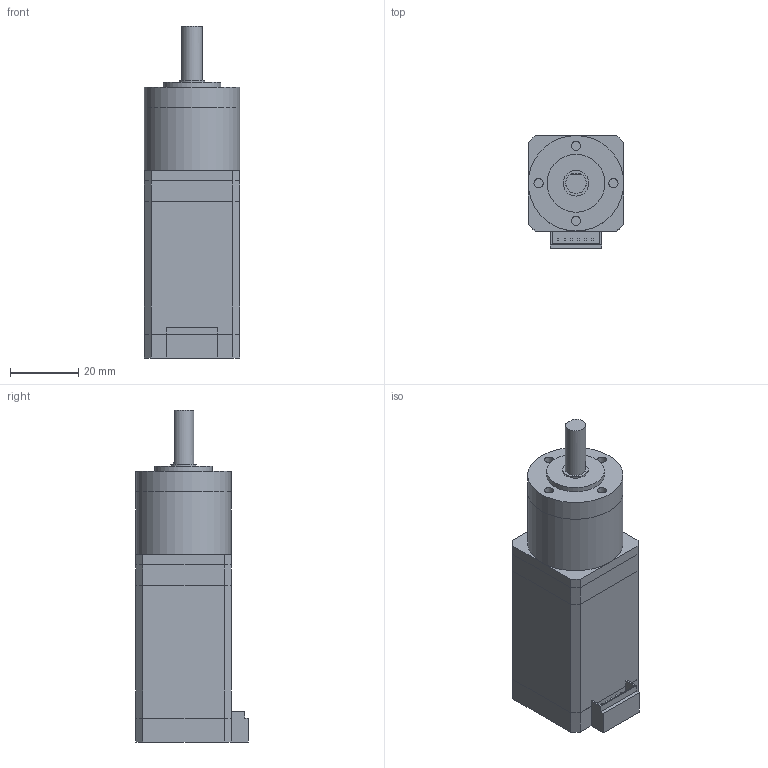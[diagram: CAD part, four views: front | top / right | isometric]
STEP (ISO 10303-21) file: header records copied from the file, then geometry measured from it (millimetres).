
FILE_DESCRIPTION(/* description */ (''),/* implementation_level */ '2;1');
FILE_NAME(/* name */ '28PG004-D10-0452.stp',/* time_stamp */ '2018-08-30T17:00:16+08:00',/* author */ (''),/* organization */ (''),/* preprocessor_version */ 'ST-DEVELOPER v11',/* originating_system */ 'SIEMENS UGS NX 6.0',/* authorisation */ '');
FILE_SCHEMA (('CONFIG_CONTROL_DESIGN'));
Length unit declared in the file: millimetre
Products named in the file (1): 28PG004-D10-0452
Bounding box: 28 x 33 x 97.5 mm (x, y, z)
Volume: 58767.3 mm3; surface area: 18315.5 mm2
Topology: 8 solids, 8 shells, 109 faces, 251 edges, 165 vertices
Faces by surface type: plane 95, cylinder 10, cone 4
Full cylindrical faces by diameter (mm): 2.7 x4, 6 x2, 7.5 x1, 17 x1, 28 x2
Entity records: 3038 total; most frequent: CARTESIAN_POINT 508, DIRECTION 480, ORIENTED_EDGE 470, EDGE_CURVE 235, LINE 210, VECTOR 210, VERTEX_POINT 163, EDGE_LOOP 140
